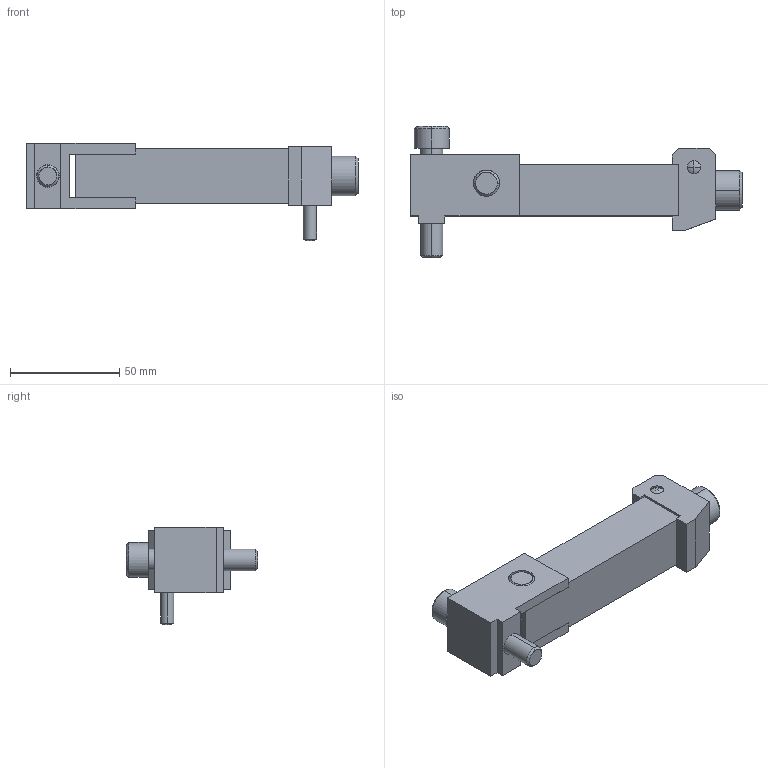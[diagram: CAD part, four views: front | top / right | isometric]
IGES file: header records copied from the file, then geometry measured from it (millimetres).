
Start section: START RECORD GO HERE.
Global section: file name: ZH90-1.igs; native system: DASSAULT SYSTEMES CATIA V5 R20 - www.3ds.com; preprocessor: CATIA Version 5 Release 20 ; author: Utente; organization: NB04-ASUS; date: 20210221.173609; units: millimetre
Bounding box: 152 x 60 x 44.7 mm (x, y, z)
Surface area: 34925 mm2 (no closed solid volume)
Topology: 0 solids, 0 shells, 128 faces, 694 edges, 684 vertices
Faces by surface type: plane 68, revolution 60
